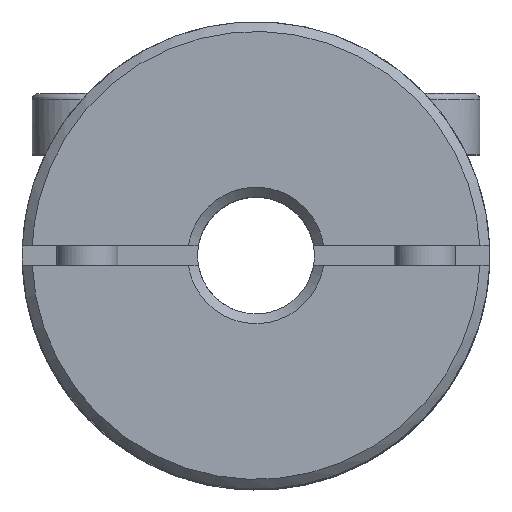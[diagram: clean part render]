
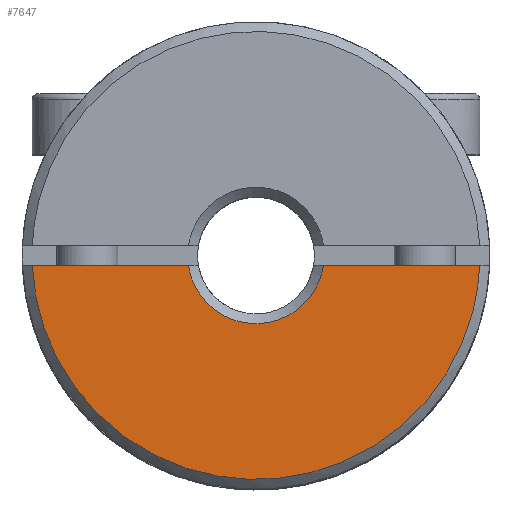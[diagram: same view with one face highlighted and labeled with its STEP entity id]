
A CAD part, top view. The second image highlights one B-rep face of the part: STEP entity #7647.
In plain terms, the highlighted free-form (B-spline) face has degree [3, 3] with [4, 4] control points.
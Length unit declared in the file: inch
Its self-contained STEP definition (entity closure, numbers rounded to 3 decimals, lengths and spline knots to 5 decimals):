
#1303=CARTESIAN_POINT('',(-0.01091,0.90637,
0.66485));
#1333=CARTESIAN_POINT('',(-0.72872,0.90637,
0.66485));
#1340=DIRECTION('',(-1.,0.,0.));
#1341=VECTOR('',#1340,0.2506);
#1342=CARTESIAN_POINT('',(-0.01091,0.90637,
0.66485));
#1343=LINE('',#1342,#1341);
#1344=CARTESIAN_POINT('',(-0.72872,0.90637,
0.66485));
#1345=CARTESIAN_POINT('',(-0.72781,0.88568,
0.66485));
#1346=CARTESIAN_POINT('',(-0.72234,0.843,
0.66485));
#1347=CARTESIAN_POINT('',(-0.70135,0.77802,
0.66485));
#1348=CARTESIAN_POINT('',(-0.6669,0.71591,
0.66485));
#1349=CARTESIAN_POINT('',(-0.61986,0.66078,
0.66485));
#1350=CARTESIAN_POINT('',(-0.56271,0.61622,
0.66485));
#1351=CARTESIAN_POINT('',(-0.50976,0.58983,
0.66485));
#1352=CARTESIAN_POINT('',(-0.46626,0.5755,
0.66485));
#1353=CARTESIAN_POINT('',(-0.43355,0.56805,
0.66485));
#1354=CARTESIAN_POINT('',(-0.40661,0.56447,
0.66485));
#1355=CARTESIAN_POINT('',(-0.38541,0.56309,
0.66485));
#1356=CARTESIAN_POINT('',(-0.36981,0.56275,
0.66485));
#1357=CARTESIAN_POINT('',(-0.35422,0.56309,
0.66485));
#1358=CARTESIAN_POINT('',(-0.33302,0.56447,
0.66485));
#1359=CARTESIAN_POINT('',(-0.30608,0.56805,
0.66485));
#1360=CARTESIAN_POINT('',(-0.27337,0.5755,
0.66485));
#1361=CARTESIAN_POINT('',(-0.22987,0.58983,
0.66485));
#1362=CARTESIAN_POINT('',(-0.17692,0.61622,
0.66485));
#1363=CARTESIAN_POINT('',(-0.11977,0.66078,
0.66485));
#1364=CARTESIAN_POINT('',(-0.07272,0.71591,
0.66485));
#1365=CARTESIAN_POINT('',(-0.03827,0.77802,
0.66485));
#1366=CARTESIAN_POINT('',(-0.01729,0.843,
0.66485));
#1367=CARTESIAN_POINT('',(-0.01181,0.88568,
0.66485));
#1368=CARTESIAN_POINT('',(-0.01091,0.90637,
0.66485));
#1370=DIRECTION('',(-1.,0.,0.));
#1371=VECTOR('',#1370,0.2506);
#1372=CARTESIAN_POINT('',(-0.47812,0.90637,
0.66485));
#1373=LINE('',#1372,#1371);
#1374=CARTESIAN_POINT('',(-0.2615,0.90637,
0.66485));
#1375=CARTESIAN_POINT('',(-0.26236,0.90046,
0.66485));
#1376=CARTESIAN_POINT('',(-0.2651,0.88843,
0.66485));
#1377=CARTESIAN_POINT('',(-0.27263,0.8705,
0.66485));
#1378=CARTESIAN_POINT('',(-0.28362,0.85365,
0.66485));
#1379=CARTESIAN_POINT('',(-0.29779,0.83886,
0.66485));
#1380=CARTESIAN_POINT('',(-0.31446,0.82697,
0.66485));
#1381=CARTESIAN_POINT('',(-0.33272,0.81851,
0.66485));
#1382=CARTESIAN_POINT('',(-0.3484,0.81446,
0.66485));
#1383=CARTESIAN_POINT('',(-0.36078,0.81291,
0.66485));
#1384=CARTESIAN_POINT('',(-0.36981,0.81255,
0.66485));
#1385=CARTESIAN_POINT('',(-0.37884,0.81291,
0.66485));
#1386=CARTESIAN_POINT('',(-0.39123,0.81446,
0.66485));
#1387=CARTESIAN_POINT('',(-0.40691,0.81851,
0.66485));
#1388=CARTESIAN_POINT('',(-0.42517,0.82697,
0.66485));
#1389=CARTESIAN_POINT('',(-0.44184,0.83886,
0.66485));
#1390=CARTESIAN_POINT('',(-0.456,0.85365,
0.66485));
#1391=CARTESIAN_POINT('',(-0.467,0.8705,
0.66485));
#1392=CARTESIAN_POINT('',(-0.47452,0.88843,
0.66485));
#1393=CARTESIAN_POINT('',(-0.47727,0.90046,
0.66485));
#1394=CARTESIAN_POINT('',(-0.47812,0.90637,
0.66485));
#1396=CARTESIAN_POINT('',(-0.2615,0.90637,
0.66485));
#5565=VERTEX_POINT('',#1303);
#5572=VERTEX_POINT('',#1396);
#5601=VERTEX_POINT('',#1333);
#5603=CARTESIAN_POINT('',(-0.47812,0.90637,
0.66485));
#5604=VERTEX_POINT('',#5603);
#7623=CARTESIAN_POINT('',(-0.74308,0.55599,
0.66485));
#7624=CARTESIAN_POINT('',(-0.74308,0.67508,
0.66485));
#7625=CARTESIAN_POINT('',(-0.74308,0.79416,
0.66485));
#7626=CARTESIAN_POINT('',(-0.74308,0.91324,
0.66485));
#7627=CARTESIAN_POINT('',(-0.49423,0.55599,
0.66485));
#7628=CARTESIAN_POINT('',(-0.49423,0.67508,
0.66485));
#7629=CARTESIAN_POINT('',(-0.49423,0.79416,
0.66485));
#7630=CARTESIAN_POINT('',(-0.49423,0.91324,
0.66485));
#7631=CARTESIAN_POINT('',(-0.24539,0.55599,
0.66485));
#7632=CARTESIAN_POINT('',(-0.24539,0.67508,
0.66485));
#7633=CARTESIAN_POINT('',(-0.24539,0.79416,
0.66485));
#7634=CARTESIAN_POINT('',(-0.24539,0.91324,
0.66485));
#7635=CARTESIAN_POINT('',(0.00345,0.55599,
0.66485));
#7636=CARTESIAN_POINT('',(0.00345,0.67508,
0.66485));
#7637=CARTESIAN_POINT('',(0.00345,0.79416,
0.66485));
#7638=CARTESIAN_POINT('',(0.00345,0.91324,
0.66485));
#7639=B_SPLINE_SURFACE_WITH_KNOTS('',3,3,((#7623,#7624,#7625,#7626),(#7627,
#7628,#7629,#7630),(#7631,#7632,#7633,#7634),(#7635,#7636,#7637,#7638)),
.UNSPECIFIED.,.F.,.F.,.F.,(4,4),(4,4),(-0.94809,0.94809),(
-0.92995,-0.02255),.UNSPECIFIED.);
#7640=ORIENTED_EDGE('',*,*,#7569,.F.);
#7641=ORIENTED_EDGE('',*,*,#7611,.F.);
#7642=ORIENTED_EDGE('',*,*,#7494,.F.);
#7644=ORIENTED_EDGE('',*,*,#7643,.F.);
#7645=EDGE_LOOP('',(#7640,#7641,#7642,#7644));
#7646=FACE_OUTER_BOUND('',#7645,.F.);
#1369=B_SPLINE_CURVE_WITH_KNOTS('',3,(#1344,#1345,#1346,#1347,#1348,#1349,#1350,
#1351,#1352,#1353,#1354,#1355,#1356,#1357,#1358,#1359,#1360,#1361,#1362,#1363,
#1364,#1365,#1366,#1367,#1368),.UNSPECIFIED.,.F.,.F.,(4,1,1,1,1,1,1,1,1,1,1,1,1,
1,1,1,1,1,1,1,1,1,4),(0.,0.0625,0.125,0.1875,0.25,0.3125,0.375,
0.40625,0.4375,0.46875,0.48438,0.5,0.51563,0.53125,0.5625,
0.59375,0.625,0.6875,0.75,0.8125,0.875,0.9375,1.),
.UNSPECIFIED.);
#1395=B_SPLINE_CURVE_WITH_KNOTS('',3,(#1374,#1375,#1376,#1377,#1378,#1379,#1380,
#1381,#1382,#1383,#1384,#1385,#1386,#1387,#1388,#1389,#1390,#1391,#1392,#1393,
#1394),.UNSPECIFIED.,.F.,.F.,(4,1,1,1,1,1,1,1,1,1,1,1,1,1,1,1,1,1,4),(0.,
0.0625,0.125,0.1875,0.25,0.3125,0.375,0.4375,0.46875,0.5,
0.53125,0.5625,0.625,0.6875,0.75,0.8125,0.875,0.9375,1.),
.UNSPECIFIED.);
#7494=EDGE_CURVE('',#5604,#5601,#1373,.T.);
#7569=EDGE_CURVE('',#5565,#5572,#1343,.T.);
#7611=EDGE_CURVE('',#5601,#5565,#1369,.T.);
#7643=EDGE_CURVE('',#5572,#5604,#1395,.T.);
#7647=ADVANCED_FACE('',(#7646),#7639,.T.);
